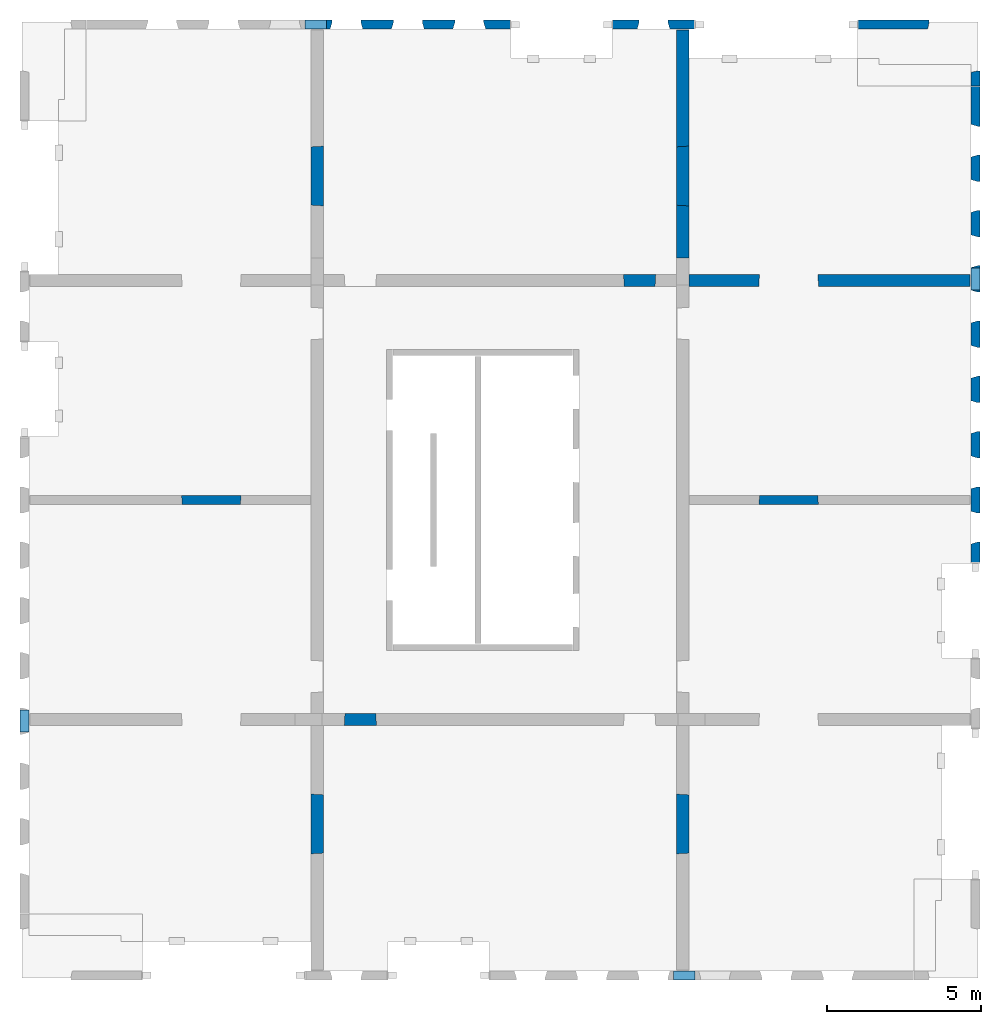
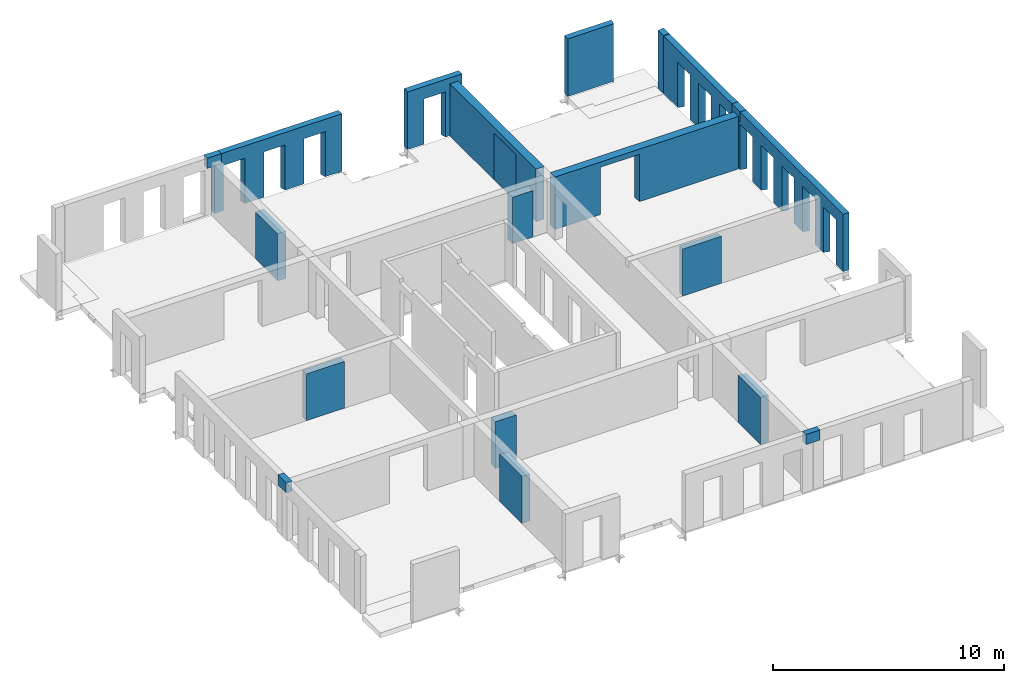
# One storey, part 4 of 4: 20 walls, 19 openings.
"""IFC2X3 building model written with IfcOpenShell, lengths in millimetres."""

from ifc_helpers import new_model, entity, si_unit, converted_unit, derived_unit, direction, frame, frame_2d, origin, place, context, subcontext, project, spatial, rectangle, extrude, faceted_brep, material, layer, layer_set, layer_usage, type_object, element, save


model = new_model("IFC2X3")

# Units and contexts
model_context = context("Model", 3, precision=0.01, world=origin(), true_north=direction((6.12303176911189e-17, 1.0)))
body_context = subcontext(model_context, "Body", "Model", "MODEL_VIEW")
ifc_project = project(units=[si_unit("LENGTHUNIT", "METRE", prefix="MILLI"), si_unit("AREAUNIT", "SQUARE_METRE"), si_unit("VOLUMEUNIT", "CUBIC_METRE"), converted_unit("PLANEANGLEUNIT", "DEGREE", entity("IfcRatioMeasure", 0.0174532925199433), si_unit("PLANEANGLEUNIT", "RADIAN"), dimensions=[0, 0, 0, 0, 0, 0, 0]), si_unit("MASSUNIT", "GRAM", prefix="KILO"), derived_unit("MASSDENSITYUNIT", [(si_unit("MASSUNIT", "GRAM", prefix="KILO"), 1), (si_unit("LENGTHUNIT", "METRE"), -3)]), si_unit("TIMEUNIT", "SECOND"), si_unit("FREQUENCYUNIT", "HERTZ"), si_unit("THERMODYNAMICTEMPERATUREUNIT", "DEGREE_CELSIUS"), derived_unit("THERMALTRANSMITTANCEUNIT", [(si_unit("MASSUNIT", "GRAM", prefix="KILO"), 1), (si_unit("THERMODYNAMICTEMPERATUREUNIT", "KELVIN"), -1), (si_unit("TIMEUNIT", "SECOND"), -3)]), derived_unit("VOLUMETRICFLOWRATEUNIT", [(si_unit("LENGTHUNIT", "METRE"), 3), (si_unit("TIMEUNIT", "SECOND"), -1)]), si_unit("ELECTRICCURRENTUNIT", "AMPERE"), si_unit("ELECTRICVOLTAGEUNIT", "VOLT"), si_unit("POWERUNIT", "WATT"), si_unit("FORCEUNIT", "NEWTON", prefix="KILO"), si_unit("ILLUMINANCEUNIT", "LUX"), si_unit("LUMINOUSFLUXUNIT", "LUMEN"), si_unit("LUMINOUSINTENSITYUNIT", "CANDELA"), derived_unit("USERDEFINED", [(si_unit("MASSUNIT", "GRAM", prefix="KILO"), -1), (si_unit("LENGTHUNIT", "METRE"), -2), (si_unit("TIMEUNIT", "SECOND"), 3), (si_unit("LUMINOUSFLUXUNIT", "LUMEN"), 1)]), derived_unit("LINEARVELOCITYUNIT", [(si_unit("LENGTHUNIT", "METRE"), 1), (si_unit("TIMEUNIT", "SECOND"), -1)]), si_unit("PRESSUREUNIT", "PASCAL"), derived_unit("USERDEFINED", [(si_unit("LENGTHUNIT", "METRE"), -2), (si_unit("MASSUNIT", "GRAM", prefix="KILO"), 1), (si_unit("TIMEUNIT", "SECOND"), -2)])], contexts=[model_context])

# Site, building, storey
site_placement = place(None, origin())
site = spatial("IfcSite", under=ifc_project, at=site_placement, Name="Default", CompositionType="ELEMENT")
building_placement = place(site_placement, origin())
building = spatial("IfcBuilding", under=site, at=building_placement, Name="niet gebruiken", CompositionType="ELEMENT")
storey_placement = place(building_placement, frame((0.0, 0.0, 88380.0)))
storey = spatial("IfcBuildingStorey", under=building, at=storey_placement, Name="28 achtentwintigste verdieping", CompositionType="ELEMENT", Elevation=88380.0000000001)

# Walls
ifc_material_1 = material(Name="NLRS_f2_beton ihwg")
ifc_layer_1 = layer(ifc_material_1, 300.0)
ifc_layer_set_1 = layer_set([ifc_layer_1], Name="Basic Wall:NLRS_21.21_WA_beton ihwg d=300_gen")
ifc_layer_usage_1 = layer_usage(ifc_layer_set_1, "AXIS2", "NEGATIVE", 150.0)
wall_type_1 = type_object("IfcWallType", Name="Basic Wall:NLRS_21.21_WA_beton ihwg d=300_gen", PredefinedType="STANDARD", material=ifc_layer_set_1)
wall_1_placement = place(storey_placement, frame((148105.0, 2020.0, 2455.0), z_axis=(0.0, 0.0, 1.0), x_axis=(-1.0, 0.0, 0.0)))
element("IfcWallStandardCase", 1, at=wall_1_placement, inside=storey, type_object=wall_type_1, material=ifc_layer_usage_1, Name="Basic Wall:NLRS_21.21_WA_beton ihwg d=300_gen", ObjectType="Basic Wall:NLRS_21.21_WA_beton ihwg d=300_gen", context=body_context, shape_type="SweptSolid", body=[
    extrude(rectangle(XDim=710.000000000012, YDim=300.0, at=frame_2d((355.000000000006, -1.4210854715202e-14), x_axis=(-1.0, 0.0))), origin(), (0.0, 0.0, 1.0), 535.0),
])
ifc_layer_usage_2 = layer_usage(ifc_layer_set_1, "AXIS2", "NEGATIVE", 150.0)
wall_2_placement = place(storey_placement, frame((135395.0, 32980.0, 2455.0)))
element("IfcWallStandardCase", 2, at=wall_2_placement, inside=storey, type_object=wall_type_1, material=ifc_layer_usage_2, Name="Basic Wall:NLRS_21.21_WA_beton ihwg d=300_gen", ObjectType="Basic Wall:NLRS_21.21_WA_beton ihwg d=300_gen", context=body_context, shape_type="SweptSolid", body=[
    extrude(rectangle(XDim=710.000000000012, YDim=300.000000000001, at=frame_2d((355.000000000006, 0.0), x_axis=(-1.0, 0.0))), origin(), (0.0, 0.0, 1.0), 535.0),
])
ifc_layer_usage_3 = layer_usage(ifc_layer_set_1, "AXIS2", "NEGATIVE", 150.0)
wall_3_placement = place(storey_placement, frame((157230.0, 25055.0, 2455.0), z_axis=(0.0, 0.0, 1.0), x_axis=(0.0, -1.0, 0.0)))
element("IfcWallStandardCase", 3, at=wall_3_placement, inside=storey, type_object=wall_type_1, material=ifc_layer_usage_3, Name="Basic Wall:NLRS_21.21_WA_beton ihwg d=300_gen", ObjectType="Basic Wall:NLRS_21.21_WA_beton ihwg d=300_gen", context=body_context, shape_type="SweptSolid", body=[
    extrude(rectangle(XDim=710.000000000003, YDim=300.000000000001, at=frame_2d((355.000000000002, 9.9475983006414e-13), x_axis=(-1.0, 0.0))), origin(), (0.0, 0.0, 1.0), 535.0),
])
ifc_layer_usage_4 = layer_usage(ifc_layer_set_1, "AXIS2", "NEGATIVE", 150.0)
wall_4_placement = place(storey_placement, frame((126270.0, 9945.0, 2455.0), z_axis=(0.0, 0.0, 1.0), x_axis=(0.0, 1.0, 0.0)))
element("IfcWallStandardCase", 4, at=wall_4_placement, inside=storey, type_object=wall_type_1, material=ifc_layer_usage_4, Name="Basic Wall:NLRS_21.21_WA_beton ihwg d=300_gen", ObjectType="Basic Wall:NLRS_21.21_WA_beton ihwg d=300_gen", context=body_context, shape_type="SweptSolid", body=[
    extrude(rectangle(XDim=710.000000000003, YDim=300.000000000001, at=frame_2d((355.000000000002, 0.0), x_axis=(-1.0, 0.0))), origin(), (0.0, 0.0, 1.0), 535.0),
])

# Wall, opening
ifc_material_2 = material(Name="NLRS_f2_beton prefab")
ifc_layer_2 = layer(ifc_material_2, 400.0)
ifc_layer_set_2 = layer_set([ifc_layer_2], Name="Basic Wall:NLRS_22.21_WA_beton prefab d=400_gen")
ifc_layer_usage_5 = layer_usage(ifc_layer_set_2, "AXIS2", "NEGATIVE", 200.0)
wall_type_2 = type_object("IfcWallType", Name="Basic Wall:NLRS_22.21_WA_beton prefab d=400_gen", PredefinedType="STANDARD", material=ifc_layer_set_2)
wall_5_placement = place(storey_placement, frame((157060.0, 24650.0, -70.0), z_axis=(0.0, 0.0, 1.0), x_axis=(-1.0, 0.0, 0.0)))
wall_5 = element("IfcWallStandardCase", 5, at=wall_5_placement, inside=storey, type_object=wall_type_2, material=ifc_layer_usage_5, Name="Basic Wall:NLRS_22.21_WA_beton prefab d=400_gen", ObjectType="Basic Wall:NLRS_22.21_WA_beton prefab d=400_gen", context=body_context, shape_type="SweptSolid", body=[
    extrude(rectangle(XDim=9160.00000000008, YDim=399.999999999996, at=frame_2d((4580.00000000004, -9.2370555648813e-13), x_axis=(-1.0, 0.0))), origin(), (0.0, 0.0, 1.0), 2770.00000000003),
])
opening_1_placement = place(wall_5_placement, frame((6884.0, 200.0, 0.0)))
element("IfcOpeningElement", 6, at=opening_1_placement, cuts=wall_5, Name="Basic Wall:NLRS_22.21_WA_beton prefab d=400_gen", ObjectType="Opening", context=body_context, shape_type="Brep", body=[
    faceted_brep([(-24.0, -400.0, 2470.0), (-1924.0, -400.0, 2470.0), (-1924.0, -400.0, 0.0), (-24.0, -400.0, 0.0), (0.0, 0.0, 2494.0), (0.0, 0.0, 0.0), (-1948.0, 0.0, 0.0), (-1948.0, 0.0, 2494.0)], [[[0, 1, 2, 3]], [[4, 5, 6, 7]], [[4, 7, 1, 0]], [[7, 6, 2, 1]], [[6, 5, 3, 2]], [[5, 4, 0, 3]]]),
])

ifc_layer_usage_6 = layer_usage(ifc_layer_set_2, "AXIS2", "NEGATIVE", 200.0)
wall_6_placement = place(storey_placement, frame((147700.0, 25380.0, -70.0), z_axis=(0.0, 0.0, 1.0), x_axis=(0.0, 1.0, 0.0)))
wall_6 = element("IfcWallStandardCase", 7, at=wall_6_placement, inside=storey, type_object=wall_type_2, material=ifc_layer_usage_6, Name="Basic Wall:NLRS_22.21_WA_beton prefab d=400_gen", ObjectType="Basic Wall:NLRS_22.21_WA_beton prefab d=400_gen", context=body_context, shape_type="SweptSolid", body=[
    extrude(rectangle(XDim=7429.99999999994, YDim=400.000000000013, at=frame_2d((3714.99999999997, 7.14805992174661e-12), x_axis=(-1.0, 0.0))), origin(), (0.0, 0.0, 1.0), 2770.00000000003),
])
opening_2_placement = place(wall_6_placement, frame((1696.0, 200.0, 0.0)))
element("IfcOpeningElement", 8, at=opening_2_placement, cuts=wall_6, Name="Basic Wall:NLRS_22.21_WA_beton prefab d=400_gen", ObjectType="Opening", context=body_context, shape_type="Brep", body=[
    faceted_brep([(1924.0, 0.0, 2470.0), (1924.0, 0.0, 0.0), (24.0, 0.0, 0.0), (24.0, 0.0, 2470.0), (1948.0, -400.0, 2494.0), (0.0, -400.0, 2494.0), (0.0, -400.0, 0.0), (1948.0, -400.0, 0.0)], [[[0, 1, 2, 3]], [[4, 5, 6, 7]], [[4, 0, 3, 5]], [[5, 3, 2, 6]], [[6, 2, 1, 7]], [[7, 1, 0, 4]]]),
])

ifc_layer_3 = layer(ifc_material_2, 300.0)
ifc_layer_set_3 = layer_set([ifc_layer_3], Name="Basic Wall:NLRS_21.21_WA_beton prefab d=300/320_gen")
ifc_layer_usage_7 = layer_usage(ifc_layer_set_3, "AXIS2", "NEGATIVE", 150.0)
wall_type_3 = type_object("IfcWallType", Name="Basic Wall:NLRS_21.21_WA_beton prefab d=300/320_gen", PredefinedType="STANDARD", material=ifc_layer_set_3)
wall_7_placement = place(storey_placement, frame((145390.0, 32980.0, -50.0)))
wall_7 = element("IfcWallStandardCase", 9, at=wall_7_placement, inside=storey, type_object=wall_type_3, material=ifc_layer_usage_7, Name="Basic Wall:NLRS_21.21_WA_beton prefab d=300/320_gen", ObjectType="Basic Wall:NLRS_21.21_WA_beton prefab d=300/320_gen", context=body_context, shape_type="SweptSolid", body=[
    extrude(rectangle(XDim=2720.00000000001, YDim=300.000000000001, at=frame_2d((1360.0, -4.54747350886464e-13), x_axis=(-1.0, 0.0))), origin(), (0.0, 0.0, 1.0), 3040.0),
])
opening_3_placement = place(wall_7_placement, frame((825.0, -150.0, -20.0)))
element("IfcOpeningElement", 10, at=opening_3_placement, cuts=wall_7, Name="Basic Wall:NLRS_21.21_WA_beton prefab d=300/320_gen", ObjectType="Opening", context=body_context, shape_type="Brep", body=[
    faceted_brep([(0.0, 0.0, 2405.0), (0.0, 0.0, 0.0), (1070.0, 0.0, 0.0), (1070.0, 0.0, 2405.0), (1005.0, 219.0, 2370.0), (65.0, 219.0, 2370.0), (1005.0, 219.0, 0.0), (65.0, 219.0, 0.0), (65.0, 300.0, 0.0), (1005.0, 300.0, 0.0), (65.0, 300.0, 2370.0), (1005.0, 300.0, 2370.0)], [[[0, 1, 2, 3]], [[3, 4, 5, 0]], [[2, 6, 4, 3]], [[1, 7, 8, 9, 6, 2]], [[0, 5, 7, 1]], [[10, 11, 9, 8]], [[10, 5, 4, 11]], [[11, 4, 6, 9]], [[8, 7, 5, 10]]]),
])

# Wall, openings
ifc_layer_usage_8 = layer_usage(ifc_layer_set_3, "AXIS2", "NEGATIVE", 150.0)
wall_8_placement = place(storey_placement, frame((157230.0, 30960.0, -50.0), z_axis=(0.0, 0.0, 1.0), x_axis=(0.0, -1.0, 0.0)))
wall_8 = element("IfcWallStandardCase", 11, at=wall_8_placement, inside=storey, type_object=wall_type_3, material=ifc_layer_usage_8, Name="Basic Wall:NLRS_21.21_WA_beton prefab d=300/320_gen", ObjectType="Basic Wall:NLRS_21.21_WA_beton prefab d=300/320_gen", context=body_context, shape_type="SweptSolid", body=[
    extrude(rectangle(XDim=6249.99999999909, YDim=300.000000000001, at=frame_2d((3124.99999999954, -8.61177795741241e-12), x_axis=(-1.0, 0.0))), origin(), (0.0, 0.0, 1.0), 3039.99999999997),
])
opening_4_placement = place(wall_8_placement, frame((2295.0, -150.0, -20.0)))
element("IfcOpeningElement", 12, at=opening_4_placement, cuts=wall_8, Name="Basic Wall:NLRS_21.21_WA_beton prefab d=300/320_gen", ObjectType="Opening", context=body_context, shape_type="Brep", body=[
    faceted_brep([(-1070.0, 0.0, 2405.0), (-1070.0, 0.0, 0.0), (0.0, 0.0, 0.0), (0.0, 0.0, 2405.0), (-65.0, 219.0, 2370.0), (-1005.0, 219.0, 2370.0), (-65.0, 219.0, 0.0), (-1005.0, 219.0, 0.0), (-1005.0, 300.0, 0.0), (-65.0, 300.0, 0.0), (-1005.0, 300.0, 2370.0), (-65.0, 300.0, 2370.0)], [[[0, 1, 2, 3]], [[3, 4, 5, 0]], [[2, 6, 4, 3]], [[1, 7, 8, 9, 6, 2]], [[0, 5, 7, 1]], [[10, 11, 9, 8]], [[10, 5, 4, 11]], [[11, 4, 6, 9]], [[8, 7, 5, 10]]]),
])
opening_5_placement = place(wall_8_placement, frame((4095.0, -150.0, -20.0)))
element("IfcOpeningElement", 13, at=opening_5_placement, cuts=wall_8, Name="Basic Wall:NLRS_21.21_WA_beton prefab d=300/320_gen", ObjectType="Opening", context=body_context, shape_type="Brep", body=[
    faceted_brep([(-1070.0, 0.0, 2405.0), (-1070.0, 0.0, 0.0), (0.0, 0.0, 0.0), (0.0, 0.0, 2405.0), (-65.0, 219.0, 2370.0), (-1005.0, 219.0, 2370.0), (-65.0, 219.0, 0.0), (-1005.0, 219.0, 0.0), (-1005.0, 300.0, 0.0), (-65.0, 300.0, 0.0), (-1005.0, 300.0, 2370.0), (-65.0, 300.0, 2370.0)], [[[0, 1, 2, 3]], [[3, 4, 5, 0]], [[2, 6, 4, 3]], [[1, 7, 8, 9, 6, 2]], [[0, 5, 7, 1]], [[10, 11, 9, 8]], [[10, 5, 4, 11]], [[11, 4, 6, 9]], [[8, 7, 5, 10]]]),
])
opening_6_placement = place(wall_8_placement, frame((5895.0, -150.0, -20.0)))
element("IfcOpeningElement", 14, at=opening_6_placement, cuts=wall_8, Name="Basic Wall:NLRS_21.21_WA_beton prefab d=300/320_gen", ObjectType="Opening", context=body_context, shape_type="Brep", body=[
    faceted_brep([(-1070.0, 0.0, 2405.0), (-1070.0, 0.0, 0.0), (0.0, 0.0, 0.0), (0.0, 0.0, 2405.0), (-65.0, 219.0, 2370.0), (-1005.0, 219.0, 2370.0), (-65.0, 219.0, 0.0), (-1005.0, 219.0, 0.0), (-1005.0, 300.0, 0.0), (-65.0, 300.0, 0.0), (-1005.0, 300.0, 2370.0), (-65.0, 300.0, 2370.0)], [[[0, 1, 2, 3]], [[3, 4, 5, 0]], [[2, 6, 4, 3]], [[1, 7, 8, 9, 6, 2]], [[0, 5, 7, 1]], [[10, 11, 9, 8]], [[10, 5, 4, 11]], [[11, 4, 6, 9]], [[8, 7, 5, 10]]]),
])
opening_7_placement = place(wall_8_placement, origin())
element("IfcOpeningElement", 15, at=opening_7_placement, cuts=wall_8, Name="Basic Wall:NLRS_21.21_WA_beton prefab d=300/320_gen", ObjectType="Opening", context=body_context, shape_type="SweptSolid", body=[
    extrude(rectangle(XDim=534.99999999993, YDim=344.999999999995, at=frame_2d((0.0, -2.17426077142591e-12), x_axis=(1.0, 0.0))), frame((6077.49999999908, 150.0, 2772.5), z_axis=(0.0, -1.0, 0.0), x_axis=(0.0, 0.0, 1.0)), (0.0, 0.0, 1.0), 300.0),
])

# Wall, opening
ifc_layer_usage_9 = layer_usage(ifc_layer_set_3, "AXIS2", "NEGATIVE", 150.0)
wall_9_placement = place(storey_placement, frame((153390.0, 32980.0, -50.0)))
wall_9 = element("IfcWallStandardCase", 16, at=wall_9_placement, inside=storey, type_object=wall_type_3, material=ifc_layer_usage_9, Name="Basic Wall:NLRS_21.21_WA_beton prefab d=300/320_gen", ObjectType="Basic Wall:NLRS_21.21_WA_beton prefab d=300/320_gen", context=body_context, shape_type="SweptSolid", body=[
    extrude(rectangle(XDim=2330.00000000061, YDim=300.000000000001, at=frame_2d((1165.00000000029, -1.29318777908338e-12), x_axis=(-1.0, 0.0))), origin(), (0.0, 0.0, 1.0), 3040.0),
])
opening_8_placement = place(wall_9_placement, frame((2265.0, -250.0, 0.0)))
element("IfcOpeningElement", 17, at=opening_8_placement, cuts=wall_9, Name="Basic Wall:NLRS_21.21_WA_beton prefab d=300/320_gen", ObjectType="Opening", context=body_context, shape_type="Brep", body=[
    faceted_brep([(65.0, 0.0, 3040.0), (65.0, 319.0, 3040.0), (0.0, 0.0, 3040.0), (65.0, 0.0, 0.0), (0.0, 0.0, 0.0), (65.0, 319.0, 0.0)], [[[0, 1, 2]], [[3, 4, 5]], [[2, 4, 3, 0]], [[0, 3, 5, 1]], [[1, 5, 4, 2]]]),
])

ifc_layer_usage_10 = layer_usage(ifc_layer_set_3, "AXIS2", "NEGATIVE", 150.0)
wall_10_placement = place(storey_placement, frame((157230.0, 31470.0, -50.0), z_axis=(0.0, 0.0, 1.0), x_axis=(0.0, -1.0, 0.0)))
wall_10 = element("IfcWallStandardCase", 18, at=wall_10_placement, inside=storey, type_object=wall_type_3, material=ifc_layer_usage_10, Name="Basic Wall:NLRS_21.21_WA_beton prefab d=300/320_gen", ObjectType="Basic Wall:NLRS_21.21_WA_beton prefab d=300/320_gen", context=body_context, shape_type="SweptSolid", body=[
    extrude(rectangle(XDim=489.999999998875, YDim=300.000000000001, at=frame_2d((244.999999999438, -7.8159700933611e-13), x_axis=(-1.0, 0.0))), origin(), (0.0, 0.0, 1.0), 3040.0),
])
opening_9_placement = place(wall_10_placement, frame((65.0, -250.0, 0.0)))
element("IfcOpeningElement", 19, at=opening_9_placement, cuts=wall_10, Name="Basic Wall:NLRS_21.21_WA_beton prefab d=300/320_gen", ObjectType="Opening", context=body_context, shape_type="Brep", body=[
    faceted_brep([(-65.0, 0.0, 3040.0), (0.0, 0.0, 3040.0), (-65.0, 319.0, 3040.0), (-65.0, 0.0, 0.0), (-65.0, 319.0, 0.0), (0.0, 0.0, 0.0)], [[[0, 1, 2]], [[3, 4, 5]], [[1, 0, 3, 5]], [[0, 2, 4, 3]], [[2, 1, 5, 4]]]),
])

# Wall, openings
ifc_layer_usage_11 = layer_usage(ifc_layer_set_3, "AXIS2", "NEGATIVE", 150.0)
wall_11_placement = place(storey_placement, frame((157230.0, 24690.0, -50.0), z_axis=(0.0, 0.0, 1.0), x_axis=(0.0, -1.0, 0.0)))
wall_11 = element("IfcWallStandardCase", 20, at=wall_11_placement, inside=storey, type_object=wall_type_3, material=ifc_layer_usage_11, Name="Basic Wall:NLRS_21.21_WA_beton prefab d=300/320_gen", ObjectType="Basic Wall:NLRS_21.21_WA_beton prefab d=300/320_gen", context=body_context, shape_type="SweptSolid", body=[
    extrude(rectangle(XDim=9250.00000000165, YDim=300.000000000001, at=frame_2d((4625.00000000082, -4.43378667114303e-12), x_axis=(-1.0, 0.0))), origin(), (0.0, 0.0, 1.0), 3040.0),
])
opening_10_placement = place(wall_11_placement, frame((8625.0, -150.0, -20.0)))
element("IfcOpeningElement", 21, at=opening_10_placement, cuts=wall_11, Name="Basic Wall:NLRS_21.21_WA_beton prefab d=300/320_gen", ObjectType="Opening", context=body_context, shape_type="Brep", body=[
    faceted_brep([(-1070.0, 0.0, 2405.0), (-1070.0, 0.0, 0.0), (0.0, 0.0, 0.0), (0.0, 0.0, 2405.0), (-65.0, 219.0, 2370.0), (-1005.0, 219.0, 2370.0), (-65.0, 219.0, 0.0), (-1005.0, 219.0, 0.0), (-1005.0, 300.0, 0.0), (-65.0, 300.0, 0.0), (-1005.0, 300.0, 2370.0), (-65.0, 300.0, 2370.0)], [[[0, 1, 2, 3]], [[3, 4, 5, 0]], [[2, 6, 4, 3]], [[1, 7, 8, 9, 6, 2]], [[0, 5, 7, 1]], [[10, 11, 9, 8]], [[10, 5, 4, 11]], [[11, 4, 6, 9]], [[8, 7, 5, 10]]]),
])
opening_11_placement = place(wall_11_placement, frame((5025.0, -150.0, -20.0)))
element("IfcOpeningElement", 22, at=opening_11_placement, cuts=wall_11, Name="Basic Wall:NLRS_21.21_WA_beton prefab d=300/320_gen", ObjectType="Opening", context=body_context, shape_type="Brep", body=[
    faceted_brep([(-1070.0, 0.0, 2405.0), (-1070.0, 0.0, 0.0), (0.0, 0.0, 0.0), (0.0, 0.0, 2405.0), (-65.0, 219.0, 2370.0), (-1005.0, 219.0, 2370.0), (-65.0, 219.0, 0.0), (-1005.0, 219.0, 0.0), (-1005.0, 300.0, 0.0), (-65.0, 300.0, 0.0), (-1005.0, 300.0, 2370.0), (-65.0, 300.0, 2370.0)], [[[0, 1, 2, 3]], [[3, 4, 5, 0]], [[2, 6, 4, 3]], [[1, 7, 8, 9, 6, 2]], [[0, 5, 7, 1]], [[10, 11, 9, 8]], [[10, 5, 4, 11]], [[11, 4, 6, 9]], [[8, 7, 5, 10]]]),
])
opening_12_placement = place(wall_11_placement, frame((3225.0, -150.0, -20.0)))
element("IfcOpeningElement", 23, at=opening_12_placement, cuts=wall_11, Name="Basic Wall:NLRS_21.21_WA_beton prefab d=300/320_gen", ObjectType="Opening", context=body_context, shape_type="Brep", body=[
    faceted_brep([(-1070.0, 0.0, 2405.0), (-1070.0, 0.0, 0.0), (0.0, 0.0, 0.0), (0.0, 0.0, 2405.0), (-65.0, 219.0, 2370.0), (-1005.0, 219.0, 2370.0), (-65.0, 219.0, 0.0), (-1005.0, 219.0, 0.0), (-1005.0, 300.0, 0.0), (-65.0, 300.0, 0.0), (-1005.0, 300.0, 2370.0), (-65.0, 300.0, 2370.0)], [[[0, 1, 2, 3]], [[3, 4, 5, 0]], [[2, 6, 4, 3]], [[1, 7, 8, 9, 6, 2]], [[0, 5, 7, 1]], [[10, 11, 9, 8]], [[10, 5, 4, 11]], [[11, 4, 6, 9]], [[8, 7, 5, 10]]]),
])
opening_13_placement = place(wall_11_placement, frame((6825.0, -150.0, -20.0)))
element("IfcOpeningElement", 24, at=opening_13_placement, cuts=wall_11, Name="Basic Wall:NLRS_21.21_WA_beton prefab d=300/320_gen", ObjectType="Opening", context=body_context, shape_type="Brep", body=[
    faceted_brep([(-1070.0, 0.0, 2405.0), (-1070.0, 0.0, 0.0), (0.0, 0.0, 0.0), (0.0, 0.0, 2405.0), (-65.0, 219.0, 2370.0), (-1005.0, 219.0, 2370.0), (-65.0, 219.0, 0.0), (-1005.0, 219.0, 0.0), (-1005.0, 300.0, 0.0), (-65.0, 300.0, 0.0), (-1005.0, 300.0, 2370.0), (-65.0, 300.0, 2370.0)], [[[0, 1, 2, 3]], [[3, 4, 5, 0]], [[2, 6, 4, 3]], [[1, 7, 8, 9, 6, 2]], [[0, 5, 7, 1]], [[10, 11, 9, 8]], [[10, 5, 4, 11]], [[11, 4, 6, 9]], [[8, 7, 5, 10]]]),
])
opening_14_placement = place(wall_11_placement, frame((1425.0, -150.0, -20.0)))
element("IfcOpeningElement", 25, at=opening_14_placement, cuts=wall_11, Name="Basic Wall:NLRS_21.21_WA_beton prefab d=300/320_gen", ObjectType="Opening", context=body_context, shape_type="Brep", body=[
    faceted_brep([(0.0, 0.0, 2405.0), (-1070.0, 0.0, 2405.0), (-1070.0, 0.0, 0.0), (0.0, 0.0, 0.0), (-65.0, 219.0, 2370.0), (-1005.0, 219.0, 2370.0), (-1005.0, 219.0, 0.0), (-1005.0, 300.0, 0.0), (-65.0, 300.0, 0.0), (-65.0, 219.0, 0.0), (-65.0, 300.0, 2370.0), (-1005.0, 300.0, 2370.0)], [[[0, 1, 2, 3]], [[1, 0, 4, 5]], [[2, 1, 5, 6]], [[3, 2, 6, 7, 8, 9]], [[0, 3, 9, 4]], [[10, 8, 7, 11]], [[10, 11, 5, 4]], [[11, 7, 6, 5]], [[8, 10, 4, 9]]]),
])
opening_15_placement = place(wall_11_placement, origin())
element("IfcOpeningElement", 26, at=opening_15_placement, cuts=wall_11, Name="Basic Wall:NLRS_21.21_WA_beton prefab d=300/320_gen", ObjectType="Opening", context=body_context, shape_type="SweptSolid", body=[
    extrude(rectangle(XDim=534.999999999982, YDim=345.000000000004, at=frame_2d((-2.1600499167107e-12, 8.66862137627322e-12), x_axis=(0.0, 1.0))), frame((172.5, 150.0, 2772.5), z_axis=(0.0, -1.0, 0.0), x_axis=(-1.0, 0.0, 0.0)), (0.0, 0.0, 1.0), 300.0),
])

ifc_layer_usage_12 = layer_usage(ifc_layer_set_3, "AXIS2", "NEGATIVE", 150.0)
wall_12_placement = place(storey_placement, frame((135760.0, 32980.0, -50.0)))
wall_12 = element("IfcWallStandardCase", 27, at=wall_12_placement, inside=storey, type_object=wall_type_3, material=ifc_layer_usage_12, Name="Basic Wall:NLRS_21.21_WA_beton prefab d=300/320_gen", ObjectType="Basic Wall:NLRS_21.21_WA_beton prefab d=300/320_gen", context=body_context, shape_type="SweptSolid", body=[
    extrude(rectangle(XDim=6350.00000000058, YDim=300.000000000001, at=frame_2d((3175.00000000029, 0.0), x_axis=(-1.0, 0.0))), origin(), (0.0, 0.0, 1.0), 3040.0),
])
opening_16_placement = place(wall_12_placement, frame((455.0, -150.0, -20.0)))
element("IfcOpeningElement", 28, at=opening_16_placement, cuts=wall_12, Name="Basic Wall:NLRS_21.21_WA_beton prefab d=300/320_gen", ObjectType="Opening", context=body_context, shape_type="Brep", body=[
    faceted_brep([(1070.0, 0.0, 2405.0), (0.0, 0.0, 2405.0), (0.0, 0.0, 0.0), (1070.0, 0.0, 0.0), (1005.0, 219.0, 2370.0), (65.0, 219.0, 2370.0), (65.0, 219.0, 0.0), (65.0, 300.0, 0.0), (1005.0, 300.0, 0.0), (1005.0, 219.0, 0.0), (1005.0, 300.0, 2370.0), (65.0, 300.0, 2370.0)], [[[0, 1, 2, 3]], [[1, 0, 4, 5]], [[2, 1, 5, 6]], [[3, 2, 6, 7, 8, 9]], [[0, 3, 9, 4]], [[10, 8, 7, 11]], [[10, 11, 5, 4]], [[11, 7, 6, 5]], [[8, 10, 4, 9]]]),
])
opening_17_placement = place(wall_12_placement, frame((2455.0, -150.0, -20.0)))
element("IfcOpeningElement", 29, at=opening_17_placement, cuts=wall_12, Name="Basic Wall:NLRS_21.21_WA_beton prefab d=300/320_gen", ObjectType="Opening", context=body_context, shape_type="Brep", body=[
    faceted_brep([(1070.0, 0.0, 2405.0), (0.0, 0.0, 2405.0), (0.0, 0.0, 0.0), (1070.0, 0.0, 0.0), (1005.0, 219.0, 2370.0), (65.0, 219.0, 2370.0), (65.0, 219.0, 0.0), (65.0, 300.0, 0.0), (1005.0, 300.0, 0.0), (1005.0, 219.0, 0.0), (1005.0, 300.0, 2370.0), (65.0, 300.0, 2370.0)], [[[0, 1, 2, 3]], [[1, 0, 4, 5]], [[2, 1, 5, 6]], [[3, 2, 6, 7, 8, 9]], [[0, 3, 9, 4]], [[10, 8, 7, 11]], [[10, 11, 5, 4]], [[11, 7, 6, 5]], [[8, 10, 4, 9]]]),
])
opening_18_placement = place(wall_12_placement, frame((4455.0, -150.0, -20.0)))
element("IfcOpeningElement", 30, at=opening_18_placement, cuts=wall_12, Name="Basic Wall:NLRS_21.21_WA_beton prefab d=300/320_gen", ObjectType="Opening", context=body_context, shape_type="Brep", body=[
    faceted_brep([(1070.0, 0.0, 2405.0), (0.0, 0.0, 2405.0), (0.0, 0.0, 0.0), (1070.0, 0.0, 0.0), (1005.0, 219.0, 2370.0), (65.0, 219.0, 2370.0), (65.0, 219.0, 0.0), (65.0, 300.0, 0.0), (1005.0, 300.0, 0.0), (1005.0, 219.0, 0.0), (1005.0, 300.0, 2370.0), (65.0, 300.0, 2370.0)], [[[0, 1, 2, 3]], [[1, 0, 4, 5]], [[2, 1, 5, 6]], [[3, 2, 6, 7, 8, 9]], [[0, 3, 9, 4]], [[10, 8, 7, 11]], [[10, 11, 5, 4]], [[11, 7, 6, 5]], [[8, 10, 4, 9]]]),
])
opening_19_placement = place(wall_12_placement, origin())
element("IfcOpeningElement", 31, at=opening_19_placement, cuts=wall_12, Name="Basic Wall:NLRS_21.21_WA_beton prefab d=300/320_gen", ObjectType="Opening", context=body_context, shape_type="SweptSolid", body=[
    extrude(rectangle(XDim=534.999999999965, YDim=345.000000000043, at=frame_2d((0.0, 0.0), x_axis=(0.0, 1.0))), frame((172.500000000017, 150.0, 2772.5), z_axis=(0.0, -1.0, 0.0), x_axis=(-1.0, 0.0, 0.0)), (0.0, 0.0, 1.0), 300.0),
])

# Walls
ifc_material_3 = material(Name="NLRS_f2_beton prefab dichtstorten")
wall_type_4 = type_object("IfcWallType", Name="Parametric Wall:NLRS_22.21_WA_beton prefab d=500 1900x2470_gen", PredefinedType="NOTDEFINED", material=ifc_material_3)
wall_13_placement = place(storey_placement, frame((135600.0, 5976.0, -70.0), z_axis=(0.0, 0.0, 1.0), x_axis=(0.0, 1.0, 0.0)))
element("IfcWall", 32, at=wall_13_placement, inside=storey, type_object=wall_type_4, material=ifc_material_3, Name="Parametric Wall:NLRS_22.21_WA_beton prefab d=500 1900x2470_gen", ObjectType="Parametric Wall:NLRS_22.21_WA_beton prefab d=500 1900x2470_gen", context=body_context, shape_type="Brep", body=[
    faceted_brep([(1948.0, 0.0, 2494.0), (1948.0, 0.0, 0.0), (0.0, 0.0, 0.0), (0.0, 0.0, 2494.0), (1924.0, -400.0, 2470.0), (24.0, -400.0, 2470.0), (24.0, -400.0, 0.0), (1924.0, -400.0, 0.0)], [[[0, 1, 2, 3]], [[4, 5, 6, 7]], [[4, 7, 1, 0]], [[7, 6, 2, 1]], [[6, 5, 3, 2]], [[5, 4, 0, 3]]]),
])
wall_14_placement = place(storey_placement, frame((131382.0, 17350.0, -70.0)))
element("IfcWall", 33, at=wall_14_placement, inside=storey, type_object=wall_type_4, material=ifc_material_3, Name="Parametric Wall:NLRS_22.21_WA_beton prefab d=500 1900x2470_gen", ObjectType="Parametric Wall:NLRS_22.21_WA_beton prefab d=500 1900x2470_gen", context=body_context, shape_type="Brep", body=[
    faceted_brep([(1936.0, 300.0, 2488.0), (1936.0, 300.0, 0.0), (0.0, 300.0, 0.0), (0.0, 300.0, 2488.0), (1918.0, 0.0, 2470.0), (18.0, 0.0, 2470.0), (18.0, 0.0, 0.0), (1918.0, 0.0, 0.0)], [[[0, 1, 2, 3]], [[4, 5, 6, 7]], [[4, 7, 1, 0]], [[7, 6, 2, 1]], [[6, 5, 3, 2]], [[5, 4, 0, 3]]]),
])
wall_15_placement = place(storey_placement, frame((147500.0, 5976.0, -70.0), z_axis=(0.0, 0.0, 1.0), x_axis=(0.0, 1.0, 0.0)))
element("IfcWall", 34, at=wall_15_placement, inside=storey, type_object=wall_type_4, material=ifc_material_3, Name="Parametric Wall:NLRS_22.21_WA_beton prefab d=500 1900x2470_gen", ObjectType="Parametric Wall:NLRS_22.21_WA_beton prefab d=500 1900x2470_gen", context=body_context, shape_type="Brep", body=[
    faceted_brep([(1948.0, 0.0, 2494.0), (1948.0, 0.0, 0.0), (0.0, 0.0, 0.0), (0.0, 0.0, 2494.0), (1924.0, -400.0, 2470.0), (24.0, -400.0, 2470.0), (24.0, -400.0, 0.0), (1924.0, -400.0, 0.0)], [[[0, 1, 2, 3]], [[4, 5, 6, 7]], [[4, 7, 1, 0]], [[7, 6, 2, 1]], [[6, 5, 3, 2]], [[5, 4, 0, 3]]]),
])
for number, where, z_axis, x_axis in (
    (35, (147500.0, 27076.0, -70.0), (0.0, 0.0, 1.0), (0.0, 1.0, 0.0)),
    (36, (135600.0, 27076.0, -70.0), (0.0, 0.0, 1.0), (0.0, 1.0, 0.0)),
):
    element("IfcWall", number, at=place(storey_placement, frame(where, z_axis=z_axis, x_axis=x_axis)), inside=storey, type_object=wall_type_4, material=ifc_material_3, Name="Parametric Wall:NLRS_22.21_WA_beton prefab d=500 1900x2470_gen", ObjectType="Parametric Wall:NLRS_22.21_WA_beton prefab d=500 1900x2470_gen", context=body_context, shape_type="Brep", body=[
        faceted_brep([(0.0, -400.0, 2494.0), (0.0, -400.0, 0.0), (1948.0, -400.0, 0.0), (1948.0, -400.0, 2494.0), (24.0, 0.0, 2470.0), (1924.0, 0.0, 2470.0), (1924.0, 0.0, 0.0), (24.0, 0.0, 0.0)], [[[0, 1, 2, 3]], [[4, 5, 6, 7]], [[4, 7, 1, 0]], [[7, 6, 2, 1]], [[6, 5, 3, 2]], [[5, 4, 0, 3]]]),
    ])
wall_16_placement = place(storey_placement, frame((150182.0, 17350.0, -70.0)))
element("IfcWall", 37, at=wall_16_placement, inside=storey, type_object=wall_type_4, material=ifc_material_3, Name="Parametric Wall:NLRS_22.21_WA_beton prefab d=500 1900x2470_gen", ObjectType="Parametric Wall:NLRS_22.21_WA_beton prefab d=500 1900x2470_gen", context=body_context, shape_type="Brep", body=[
    faceted_brep([(0.0, 0.0, 2488.0), (0.0, 0.0, 0.0), (1936.0, 0.0, 0.0), (1936.0, 0.0, 2488.0), (18.0, 300.0, 2470.0), (1918.0, 300.0, 2470.0), (1918.0, 300.0, 0.0), (18.0, 300.0, 0.0)], [[[0, 1, 2, 3]], [[4, 5, 6, 7]], [[4, 7, 1, 0]], [[7, 6, 2, 1]], [[6, 5, 3, 2]], [[5, 4, 0, 3]]]),
])
wall_type_5 = type_object("IfcWallType", Name="Parametric Wall:NLRS_22.21_WA_beton prefab d=500 1006x2448_gen", PredefinedType="NOTDEFINED", material=ifc_material_3)
wall_17_placement = place(storey_placement, frame((136676.0, 10150.0, -70.0)))
element("IfcWall", 38, at=wall_17_placement, inside=storey, type_object=wall_type_5, material=ifc_material_3, Name="Parametric Wall:NLRS_22.21_WA_beton prefab d=500 1006x2448_gen", ObjectType="Parametric Wall:NLRS_22.21_WA_beton prefab d=500 1006x2448_gen", context=body_context, shape_type="Brep", body=[
    faceted_brep([(0.0, 0.0, 2472.0), (0.0, 0.0, 0.0), (1054.0, 0.0, 0.0), (1054.0, 0.0, 2472.0), (24.0, 400.0, 2448.0), (1030.0, 400.0, 2448.0), (1030.0, 400.0, 0.0), (24.0, 400.0, 0.0)], [[[0, 1, 2, 3]], [[4, 5, 6, 7]], [[4, 7, 1, 0]], [[7, 6, 2, 1]], [[6, 5, 3, 2]], [[5, 4, 0, 3]]]),
])
wall_18_placement = place(storey_placement, frame((145770.0, 24450.0, -70.0)))
element("IfcWall", 39, at=wall_18_placement, inside=storey, type_object=wall_type_5, material=ifc_material_3, Name="Parametric Wall:NLRS_22.21_WA_beton prefab d=500 1006x2448_gen", ObjectType="Parametric Wall:NLRS_22.21_WA_beton prefab d=500 1006x2448_gen", context=body_context, shape_type="Brep", body=[
    faceted_brep([(1054.0, 400.0, 2472.0), (1054.0, 400.0, 0.0), (0.0, 400.0, 0.0), (0.0, 400.0, 2472.0), (1030.0, 0.0, 2448.0), (24.0, 0.0, 2448.0), (24.0, 0.0, 0.0), (1030.0, 0.0, 0.0)], [[[0, 1, 2, 3]], [[4, 5, 6, 7]], [[4, 7, 1, 0]], [[7, 6, 2, 1]], [[6, 5, 3, 2]], [[5, 4, 0, 3]]]),
])

save(model, "model.ifc")
